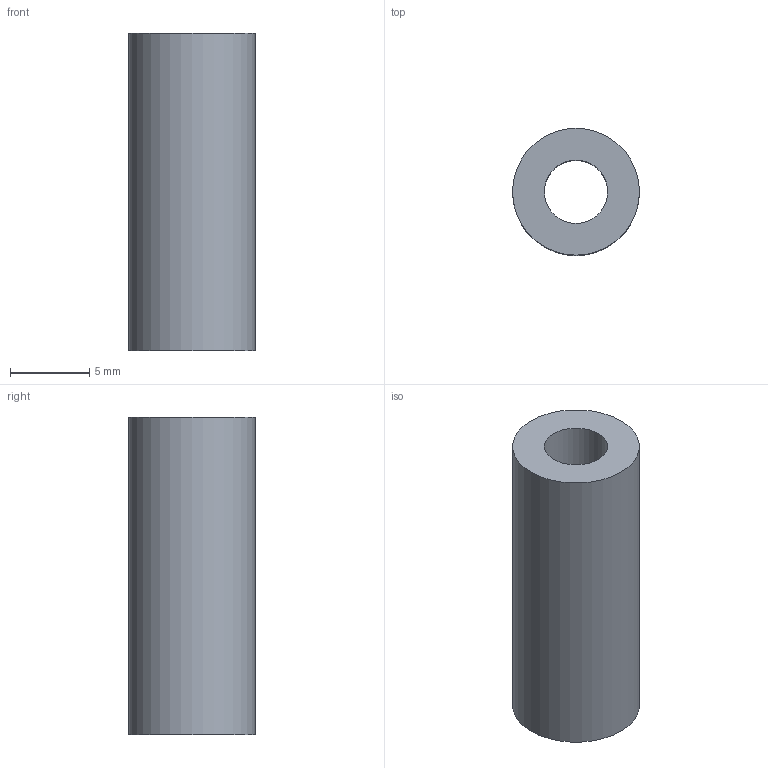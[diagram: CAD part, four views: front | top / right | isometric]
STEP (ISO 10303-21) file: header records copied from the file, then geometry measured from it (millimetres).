
FILE_DESCRIPTION(('Open CASCADE Model'),'2;1');
FILE_NAME('Open CASCADE Shape Model','2026-10-28T05:15:08',('Author'),( 'Open CASCADE'),'Open CASCADE STEP processor 7.8','Open CASCADE 7.8' ,'Unknown');
FILE_SCHEMA(('AUTOMOTIVE_DESIGN { 1 0 10303 214 1 1 1 1 }'));
Length unit declared in the file: millimetre
Products named in the file (1): Open CASCADE STEP translator 7.8 9
Bounding box: 8 x 8 x 20 mm (x, y, z)
Volume: 754 mm3; surface area: 829.4 mm2
Topology: 1 solids, 1 shells, 4 faces, 6 edges, 4 vertices
Faces by surface type: cylinder 2, plane 2
Full cylindrical faces by diameter (mm): 4 x1, 8 x1
Entity records: 186 total; most frequent: DIRECTION 32, CARTESIAN_POINT 27, ORIENTED_EDGE 12, PCURVE 12, DEFINITIONAL_REPRESENTATION 12, LINE 10, VECTOR 10, AXIS2_PLACEMENT_3D 9
